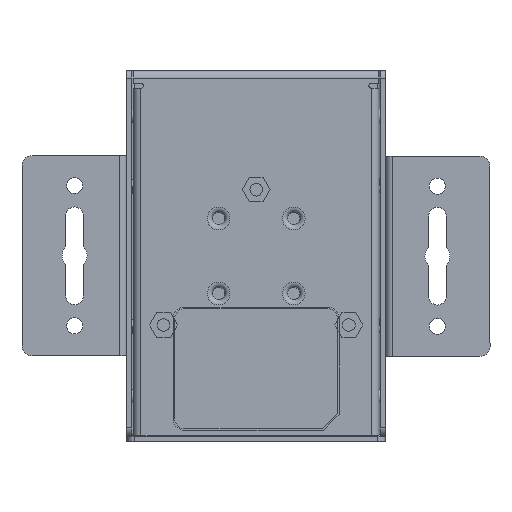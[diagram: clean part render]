
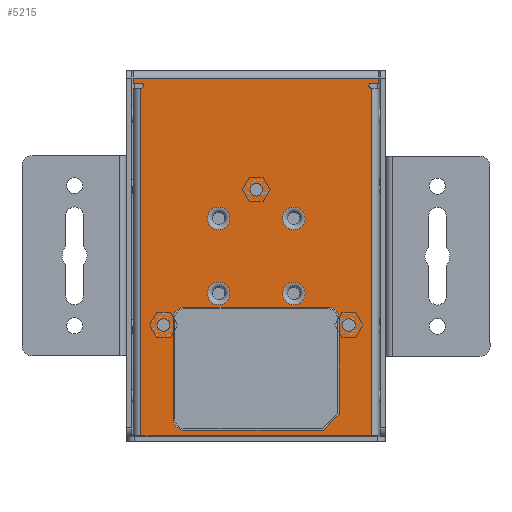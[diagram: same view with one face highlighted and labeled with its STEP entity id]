
A CAD part, front view. The second image highlights one B-rep face of the part: STEP entity #5215.
In plain terms, the highlighted planar face has unit normal (0, -1, 0).
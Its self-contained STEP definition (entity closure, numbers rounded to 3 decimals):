
#187=FACE_BOUND('',#1080,.T.);
#188=FACE_BOUND('',#1081,.T.);
#189=FACE_BOUND('',#1082,.T.);
#190=FACE_BOUND('',#1083,.T.);
#191=FACE_BOUND('',#1084,.T.);
#192=FACE_BOUND('',#1085,.T.);
#193=FACE_BOUND('',#1086,.T.);
#194=FACE_BOUND('',#1087,.T.);
#332=CIRCLE('',#5644,0.5);
#333=CIRCLE('',#5645,0.5);
#334=CIRCLE('',#5646,1.25);
#335=CIRCLE('',#5647,1.25);
#336=CIRCLE('',#5648,1.25);
#337=CIRCLE('',#5649,2.25);
#338=CIRCLE('',#5650,2.25);
#339=CIRCLE('',#5651,2.25);
#340=CIRCLE('',#5652,2.25);
#341=CIRCLE('',#5653,2.3);
#342=CIRCLE('',#5654,2.3);
#343=CIRCLE('',#5655,2.3);
#752=FACE_OUTER_BOUND('',#1079,.T.);
#1079=EDGE_LOOP('',(#3823,#3824,#3825,#3826,#3827,#3828,#3829,#3830,#3831,
#3832));
#1080=EDGE_LOOP('',(#3833));
#1081=EDGE_LOOP('',(#3834));
#1082=EDGE_LOOP('',(#3835));
#1083=EDGE_LOOP('',(#3836));
#1084=EDGE_LOOP('',(#3837));
#1085=EDGE_LOOP('',(#3838));
#1086=EDGE_LOOP('',(#3839));
#1087=EDGE_LOOP('',(#3840,#3841,#3842,#3843,#3844,#3845,#3846,#3847));
#1479=LINE('',#8387,#1924);
#1480=LINE('',#8389,#1925);
#1481=LINE('',#8391,#1926);
#1482=LINE('',#8393,#1927);
#1483=LINE('',#8395,#1928);
#1484=LINE('',#8399,#1929);
#1485=LINE('',#8401,#1930);
#1486=LINE('',#8402,#1931);
#1487=LINE('',#8419,#1932);
#1488=LINE('',#8423,#1933);
#1489=LINE('',#8427,#1934);
#1490=LINE('',#8429,#1935);
#1491=LINE('',#8431,#1936);
#1924=VECTOR('',#6438,1.5);
#1925=VECTOR('',#6439,1.);
#1926=VECTOR('',#6440,49.);
#1927=VECTOR('',#6441,1.);
#1928=VECTOR('',#6442,1.5);
#1929=VECTOR('',#6445,69.3);
#1930=VECTOR('',#6446,46.);
#1931=VECTOR('',#6447,69.3);
#1932=VECTOR('',#6462,20.);
#1933=VECTOR('',#6465,28.5);
#1934=VECTOR('',#6468,19.124);
#1935=VECTOR('',#6469,4.491);
#1936=VECTOR('',#6470,27.624);
#2371=VERTEX_POINT('',#8383);
#2372=VERTEX_POINT('',#8384);
#2373=VERTEX_POINT('',#8386);
#2374=VERTEX_POINT('',#8388);
#2375=VERTEX_POINT('',#8390);
#2376=VERTEX_POINT('',#8392);
#2377=VERTEX_POINT('',#8394);
#2378=VERTEX_POINT('',#8396);
#2379=VERTEX_POINT('',#8398);
#2380=VERTEX_POINT('',#8400);
#2381=VERTEX_POINT('',#8403);
#2382=VERTEX_POINT('',#8405);
#2383=VERTEX_POINT('',#8407);
#2384=VERTEX_POINT('',#8409);
#2385=VERTEX_POINT('',#8411);
#2386=VERTEX_POINT('',#8413);
#2387=VERTEX_POINT('',#8415);
#2388=VERTEX_POINT('',#8417);
#2389=VERTEX_POINT('',#8418);
#2390=VERTEX_POINT('',#8420);
#2391=VERTEX_POINT('',#8422);
#2392=VERTEX_POINT('',#8424);
#2393=VERTEX_POINT('',#8426);
#2394=VERTEX_POINT('',#8428);
#2395=VERTEX_POINT('',#8430);
#2909=EDGE_CURVE('',#2371,#2372,#332,.T.);
#2910=EDGE_CURVE('',#2373,#2371,#1479,.T.);
#2911=EDGE_CURVE('',#2374,#2373,#1480,.T.);
#2912=EDGE_CURVE('',#2375,#2374,#1481,.T.);
#2913=EDGE_CURVE('',#2376,#2375,#1482,.T.);
#2914=EDGE_CURVE('',#2376,#2377,#1483,.T.);
#2915=EDGE_CURVE('',#2378,#2377,#333,.T.);
#2916=EDGE_CURVE('',#2379,#2378,#1484,.T.);
#2917=EDGE_CURVE('',#2380,#2379,#1485,.T.);
#2918=EDGE_CURVE('',#2372,#2380,#1486,.T.);
#2919=EDGE_CURVE('',#2381,#2381,#334,.T.);
#2920=EDGE_CURVE('',#2382,#2382,#335,.T.);
#2921=EDGE_CURVE('',#2383,#2383,#336,.T.);
#2922=EDGE_CURVE('',#2384,#2384,#337,.T.);
#2923=EDGE_CURVE('',#2385,#2385,#338,.T.);
#2924=EDGE_CURVE('',#2386,#2386,#339,.T.);
#2925=EDGE_CURVE('',#2387,#2387,#340,.T.);
#2926=EDGE_CURVE('',#2388,#2389,#1487,.T.);
#2927=EDGE_CURVE('',#2390,#2388,#341,.T.);
#2928=EDGE_CURVE('',#2391,#2390,#1488,.T.);
#2929=EDGE_CURVE('',#2392,#2391,#342,.T.);
#2930=EDGE_CURVE('',#2393,#2392,#1489,.T.);
#2931=EDGE_CURVE('',#2394,#2393,#1490,.T.);
#2932=EDGE_CURVE('',#2395,#2394,#1491,.T.);
#2933=EDGE_CURVE('',#2389,#2395,#343,.T.);
#3823=ORIENTED_EDGE('',*,*,#2909,.F.);
#3824=ORIENTED_EDGE('',*,*,#2910,.F.);
#3825=ORIENTED_EDGE('',*,*,#2911,.F.);
#3826=ORIENTED_EDGE('',*,*,#2912,.F.);
#3827=ORIENTED_EDGE('',*,*,#2913,.F.);
#3828=ORIENTED_EDGE('',*,*,#2914,.T.);
#3829=ORIENTED_EDGE('',*,*,#2915,.F.);
#3830=ORIENTED_EDGE('',*,*,#2916,.F.);
#3831=ORIENTED_EDGE('',*,*,#2917,.F.);
#3832=ORIENTED_EDGE('',*,*,#2918,.F.);
#3833=ORIENTED_EDGE('',*,*,#2919,.T.);
#3834=ORIENTED_EDGE('',*,*,#2920,.T.);
#3835=ORIENTED_EDGE('',*,*,#2921,.T.);
#3836=ORIENTED_EDGE('',*,*,#2922,.F.);
#3837=ORIENTED_EDGE('',*,*,#2923,.F.);
#3838=ORIENTED_EDGE('',*,*,#2924,.F.);
#3839=ORIENTED_EDGE('',*,*,#2925,.F.);
#3840=ORIENTED_EDGE('',*,*,#2926,.F.);
#3841=ORIENTED_EDGE('',*,*,#2927,.F.);
#3842=ORIENTED_EDGE('',*,*,#2928,.F.);
#3843=ORIENTED_EDGE('',*,*,#2929,.F.);
#3844=ORIENTED_EDGE('',*,*,#2930,.F.);
#3845=ORIENTED_EDGE('',*,*,#2931,.F.);
#3846=ORIENTED_EDGE('',*,*,#2932,.F.);
#3847=ORIENTED_EDGE('',*,*,#2933,.F.);
#5029=PLANE('',#5643);
#5215=ADVANCED_FACE('',(#752,#187,#188,#189,#190,#191,#192,#193,#194),#5029,
 .F.);
#5643=AXIS2_PLACEMENT_3D('',#8382,#6434,#6435);
#5644=AXIS2_PLACEMENT_3D('',#8385,#6436,#6437);
#5645=AXIS2_PLACEMENT_3D('',#8397,#6443,#6444);
#5646=AXIS2_PLACEMENT_3D('',#8404,#6448,#6449);
#5647=AXIS2_PLACEMENT_3D('',#8406,#6450,#6451);
#5648=AXIS2_PLACEMENT_3D('',#8408,#6452,#6453);
#5649=AXIS2_PLACEMENT_3D('',#8410,#6454,#6455);
#5650=AXIS2_PLACEMENT_3D('',#8412,#6456,#6457);
#5651=AXIS2_PLACEMENT_3D('',#8414,#6458,#6459);
#5652=AXIS2_PLACEMENT_3D('',#8416,#6460,#6461);
#5653=AXIS2_PLACEMENT_3D('',#8421,#6463,#6464);
#5654=AXIS2_PLACEMENT_3D('',#8425,#6466,#6467);
#5655=AXIS2_PLACEMENT_3D('',#8432,#6471,#6472);
#6434=DIRECTION('center_axis',(0.,1.,0.));
#6435=DIRECTION('ref_axis',(1.,0.,0.));
#6436=DIRECTION('center_axis',(0.,-1.,0.));
#6437=DIRECTION('ref_axis',(0.,0.,1.));
#6438=DIRECTION('',(-1.,0.,0.));
#6439=DIRECTION('',(0.,0.,-1.));
#6440=DIRECTION('',(1.,0.,0.));
#6441=DIRECTION('',(0.,0.,1.));
#6442=DIRECTION('',(1.,0.,0.));
#6443=DIRECTION('center_axis',(0.,-1.,0.));
#6444=DIRECTION('ref_axis',(0.,0.,-1.));
#6445=DIRECTION('',(0.,0.,1.));
#6446=DIRECTION('',(-1.,0.,0.));
#6447=DIRECTION('',(0.,0.,-1.));
#6448=DIRECTION('center_axis',(0.,1.,0.));
#6449=DIRECTION('ref_axis',(1.,0.,0.));
#6450=DIRECTION('center_axis',(0.,1.,0.));
#6451=DIRECTION('ref_axis',(1.,0.,0.));
#6452=DIRECTION('center_axis',(0.,1.,0.));
#6453=DIRECTION('ref_axis',(1.,0.,0.));
#6454=DIRECTION('center_axis',(0.,-1.,0.));
#6455=DIRECTION('ref_axis',(0.,0.,-1.));
#6456=DIRECTION('center_axis',(0.,-1.,0.));
#6457=DIRECTION('ref_axis',(0.,0.,1.));
#6458=DIRECTION('center_axis',(0.,-1.,0.));
#6459=DIRECTION('ref_axis',(0.,0.,1.));
#6460=DIRECTION('center_axis',(0.,-1.,0.));
#6461=DIRECTION('ref_axis',(0.,0.,1.));
#6462=DIRECTION('',(0.,0.,-1.));
#6463=DIRECTION('center_axis',(0.,-1.,0.));
#6464=DIRECTION('ref_axis',(0.,0.,1.));
#6465=DIRECTION('',(-1.,0.,0.));
#6466=DIRECTION('center_axis',(0.,-1.,0.));
#6467=DIRECTION('ref_axis',(1.,0.,0.));
#6468=DIRECTION('',(0.,0.,1.));
#6469=DIRECTION('',(0.707,0.,0.707));
#6470=DIRECTION('',(1.,0.,0.));
#6471=DIRECTION('center_axis',(0.,-1.,0.));
#6472=DIRECTION('ref_axis',(-1.,0.,0.));
#8382=CARTESIAN_POINT('Origin',(0.,-26.5,0.));
#8383=CARTESIAN_POINT('',(23.,-26.5,34.5));
#8384=CARTESIAN_POINT('',(23.,-26.5,33.5));
#8385=CARTESIAN_POINT('Origin',(23.,-26.5,34.));
#8386=CARTESIAN_POINT('',(24.5,-26.5,34.5));
#8387=CARTESIAN_POINT('',(24.5,-26.5,34.5));
#8388=CARTESIAN_POINT('',(24.5,-26.5,35.5));
#8389=CARTESIAN_POINT('',(24.5,-26.5,35.5));
#8390=CARTESIAN_POINT('',(-24.5,-26.5,35.5));
#8391=CARTESIAN_POINT('',(-24.5,-26.5,35.5));
#8392=CARTESIAN_POINT('',(-24.5,-26.5,34.5));
#8393=CARTESIAN_POINT('',(-24.5,-26.5,34.5));
#8394=CARTESIAN_POINT('',(-23.,-26.5,34.5));
#8395=CARTESIAN_POINT('',(-24.5,-26.5,34.5));
#8396=CARTESIAN_POINT('',(-23.,-26.5,33.5));
#8397=CARTESIAN_POINT('Origin',(-23.,-26.5,34.));
#8398=CARTESIAN_POINT('',(-23.,-26.5,-35.8));
#8399=CARTESIAN_POINT('',(-23.,-26.5,-35.8));
#8400=CARTESIAN_POINT('',(23.,-26.5,-35.8));
#8401=CARTESIAN_POINT('',(23.,-26.5,-35.8));
#8402=CARTESIAN_POINT('',(23.,-26.5,33.5));
#8403=CARTESIAN_POINT('',(-1.25,-26.5,13.223));
#8404=CARTESIAN_POINT('Origin',(0.,-26.5,13.223));
#8405=CARTESIAN_POINT('',(17.25,-26.5,-13.777));
#8406=CARTESIAN_POINT('Origin',(18.5,-26.5,-13.777));
#8407=CARTESIAN_POINT('',(-19.75,-26.5,-13.777));
#8408=CARTESIAN_POINT('Origin',(-18.5,-26.5,-13.777));
#8409=CARTESIAN_POINT('',(7.5,-26.5,-9.75));
#8410=CARTESIAN_POINT('Origin',(7.5,-26.5,-7.5));
#8411=CARTESIAN_POINT('',(7.5,-26.5,9.75));
#8412=CARTESIAN_POINT('Origin',(7.5,-26.5,7.5));
#8413=CARTESIAN_POINT('',(-7.5,-26.5,9.75));
#8414=CARTESIAN_POINT('Origin',(-7.5,-26.5,7.5));
#8415=CARTESIAN_POINT('',(-7.5,-26.5,-5.25));
#8416=CARTESIAN_POINT('Origin',(-7.5,-26.5,-7.5));
#8417=CARTESIAN_POINT('',(-16.55,-26.5,-12.5));
#8418=CARTESIAN_POINT('',(-16.55,-26.5,-32.5));
#8419=CARTESIAN_POINT('',(-16.55,-26.5,-12.5));
#8420=CARTESIAN_POINT('',(-14.25,-26.5,-10.2));
#8421=CARTESIAN_POINT('Origin',(-14.25,-26.5,-12.5));
#8422=CARTESIAN_POINT('',(14.25,-26.5,-10.2));
#8423=CARTESIAN_POINT('',(14.25,-26.5,-10.2));
#8424=CARTESIAN_POINT('',(16.55,-26.5,-12.5));
#8425=CARTESIAN_POINT('Origin',(14.25,-26.5,-12.5));
#8426=CARTESIAN_POINT('',(16.55,-26.5,-31.624));
#8427=CARTESIAN_POINT('',(16.55,-26.5,-31.624));
#8428=CARTESIAN_POINT('',(13.374,-26.5,-34.8));
#8429=CARTESIAN_POINT('',(13.374,-26.5,-34.8));
#8430=CARTESIAN_POINT('',(-14.25,-26.5,-34.8));
#8431=CARTESIAN_POINT('',(-14.25,-26.5,-34.8));
#8432=CARTESIAN_POINT('Origin',(-14.25,-26.5,-32.5));
